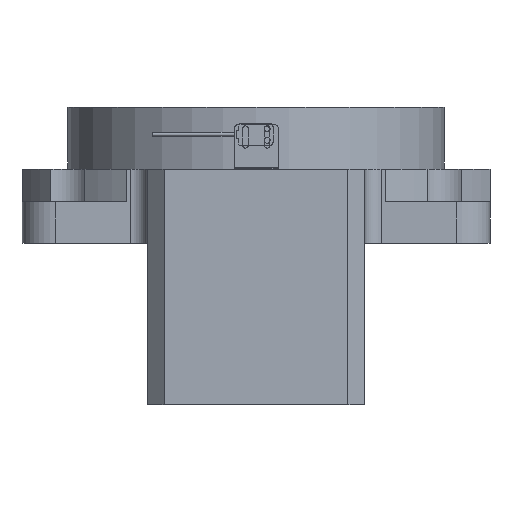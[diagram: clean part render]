
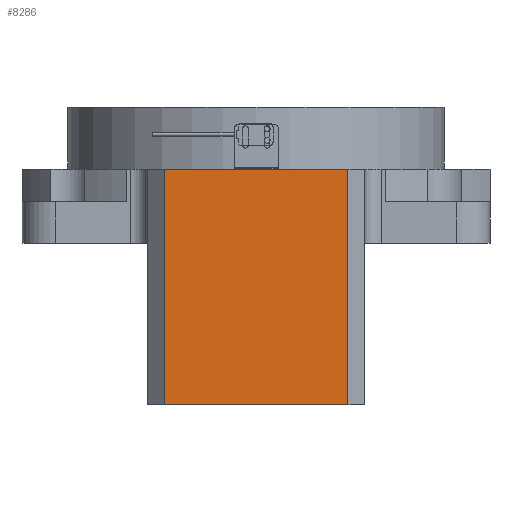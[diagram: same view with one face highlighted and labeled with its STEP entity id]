
A CAD part, front view. The second image highlights one B-rep face of the part: STEP entity #8286.
In plain terms, the highlighted planar face has unit normal (0, -1, 0).
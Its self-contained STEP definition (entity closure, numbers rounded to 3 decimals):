
#1531 = CARTESIAN_POINT ( 'NONE',  ( 42.008, -177.645, -97.25 ) ) ;
#2071 = PLANE ( 'NONE',  #15138 ) ;
#3370 = DIRECTION ( 'NONE',  ( -1., 0., 0. ) ) ;
#3565 = ORIENTED_EDGE ( 'NONE', *, *, #30066, .F. ) ;
#3637 = VERTEX_POINT ( 'NONE', #27995 ) ;
#4312 = VECTOR ( 'NONE', #15789, 1000. ) ;
#5488 = CARTESIAN_POINT ( 'NONE',  ( -67.992, -177.645, 43.75 ) ) ;
#7542 = VECTOR ( 'NONE', #3370, 1000. ) ;
#7754 = EDGE_CURVE ( 'NONE', #3637, #10169, #19064, .T. ) ;
#8286 = ADVANCED_FACE ( 'NONE', ( #27510 ), #2071, .F. ) ;
#8721 = DIRECTION ( 'NONE',  ( 0., 1., 0. ) ) ;
#9002 = VERTEX_POINT ( 'NONE', #1531 ) ;
#9568 = VECTOR ( 'NONE', #22092, 1000. ) ;
#10169 = VERTEX_POINT ( 'NONE', #26007 ) ;
#11526 = VERTEX_POINT ( 'NONE', #12725 ) ;
#12475 = LINE ( 'NONE', #5488, #9568 ) ;
#12725 = CARTESIAN_POINT ( 'NONE',  ( 42.008, -177.645, 43.75 ) ) ;
#12806 = ORIENTED_EDGE ( 'NONE', *, *, #13350, .F. ) ;
#13350 = EDGE_CURVE ( 'NONE', #9002, #10169, #29269, .T. ) ;
#13562 = EDGE_CURVE ( 'NONE', #3637, #11526, #12475, .T. ) ;
#13627 = CARTESIAN_POINT ( 'NONE',  ( 42.008, -177.645, 80.75 ) ) ;
#13670 = CARTESIAN_POINT ( 'NONE',  ( -67.992, -177.645, 80.75 ) ) ;
#15138 = AXIS2_PLACEMENT_3D ( 'NONE', #13670, #8721, #16139 ) ;
#15789 = DIRECTION ( 'NONE',  ( 0., 0., -1. ) ) ;
#16139 = DIRECTION ( 'NONE',  ( 1., 0., 0. ) ) ;
#18182 = ORIENTED_EDGE ( 'NONE', *, *, #7754, .T. ) ;
#18897 = EDGE_LOOP ( 'NONE', ( #30147, #18182, #12806, #3565 ) ) ;
#19064 = LINE ( 'NONE', #26074, #29968 ) ;
#22092 = DIRECTION ( 'NONE',  ( 1., 0., 0. ) ) ;
#24610 = CARTESIAN_POINT ( 'NONE',  ( 42.008, -177.645, -97.25 ) ) ;
#26007 = CARTESIAN_POINT ( 'NONE',  ( -67.992, -177.645, -97.25 ) ) ;
#26074 = CARTESIAN_POINT ( 'NONE',  ( -67.992, -177.645, 80.75 ) ) ;
#26374 = DIRECTION ( 'NONE',  ( 0., 0., -1. ) ) ;
#27510 = FACE_OUTER_BOUND ( 'NONE', #18897, .T. ) ;
#27785 = LINE ( 'NONE', #13627, #4312 ) ;
#27995 = CARTESIAN_POINT ( 'NONE',  ( -67.992, -177.645, 43.75 ) ) ;
#29269 = LINE ( 'NONE', #24610, #7542 ) ;
#29968 = VECTOR ( 'NONE', #26374, 1000. ) ;
#30066 = EDGE_CURVE ( 'NONE', #11526, #9002, #27785, .T. ) ;
#30147 = ORIENTED_EDGE ( 'NONE', *, *, #13562, .F. ) ;
